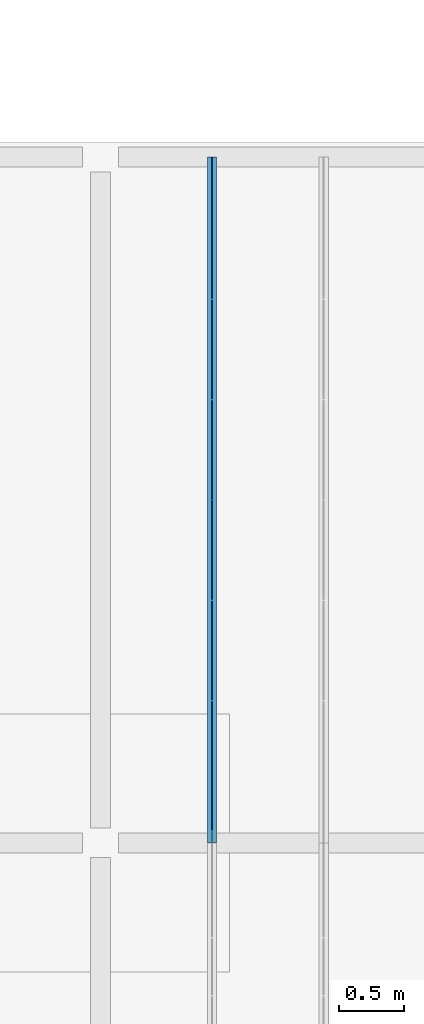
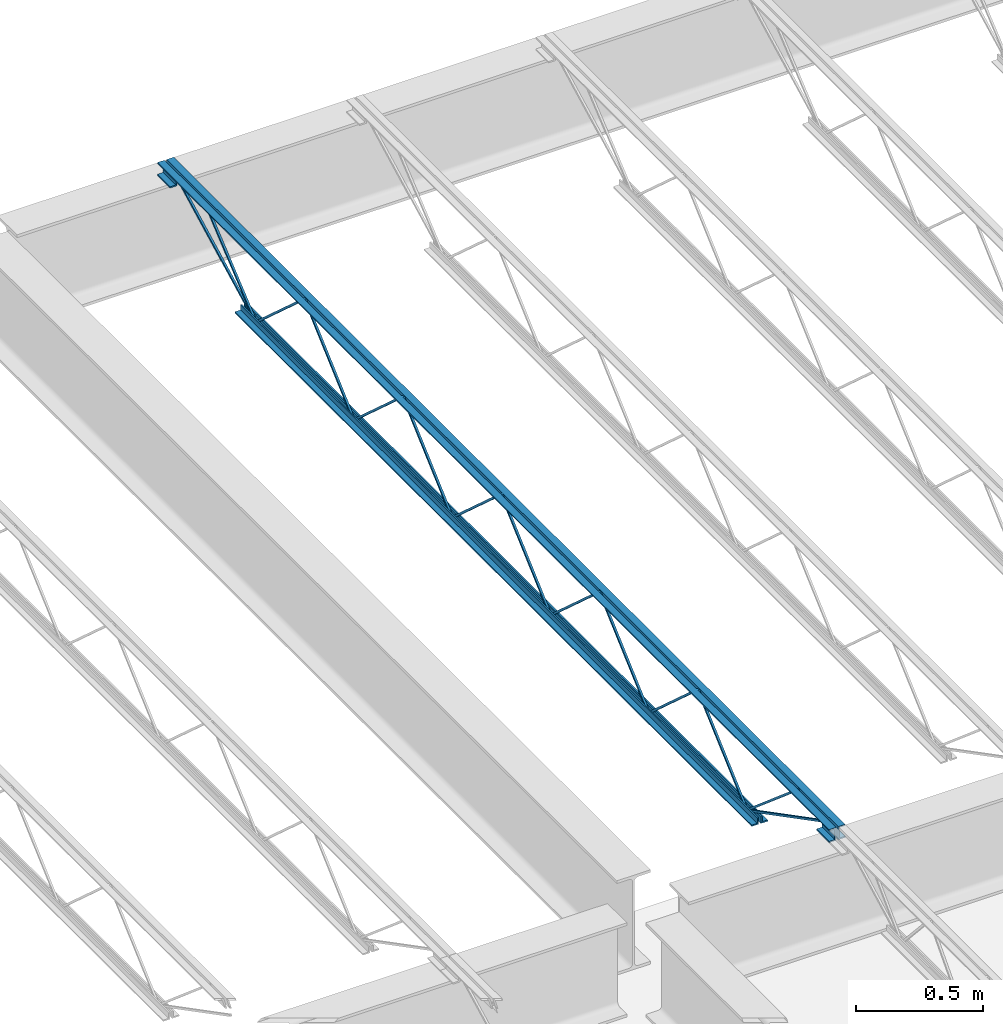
# One storey, part 60 of 75: 1 beam.
"""IFC2X3 building model written with IfcOpenShell, lengths in metres."""

from ifc_helpers import new_model, entity, si_unit, converted_unit, frame, origin, place, context, project, spatial, face_set, surface_model, element, save


model = new_model("IFC2X3")

# Units and contexts
model_context = context("Model", 3, precision=1e-09, world=origin())
plan_context = context("Plan", 3, precision=1e-09, world=origin())
ifc_project = project(units=[si_unit("LENGTHUNIT", "METRE"), si_unit("AREAUNIT", "SQUARE_METRE"), si_unit("VOLUMEUNIT", "CUBIC_METRE"), converted_unit("PLANEANGLEUNIT", "DEGREE", entity("IfcRatioMeasure", 0.01745329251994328), si_unit("PLANEANGLEUNIT", "RADIAN"), dimensions=[0, 0, 0, 0, 0, 0, 0]), si_unit("TIMEUNIT", "SECOND")], contexts=[model_context, plan_context])

# Site, building, storey
site_placement = place(None, origin())
site = spatial("IfcSite", under=ifc_project, at=site_placement, Name="Default", CompositionType="ELEMENT")
building_placement = place(site_placement, origin())
building = spatial("IfcBuilding", under=site, at=building_placement, CompositionType="ELEMENT")
storey_placement = place(building_placement, origin())
storey = spatial("IfcBuildingStorey", under=building, at=storey_placement, Name="First Floor", CompositionType="ELEMENT", Elevation=-3.531500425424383e-13)

# Beam
beam_placement = place(storey_placement, frame((-19.23341249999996, 44.78049999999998, 4.112000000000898), z_axis=(0.0, 0.0, 1.0), x_axis=(-1.0, 0.0, 0.0)))
element("IfcBeam", 1, at=beam_placement, inside=storey, Name="M_K-Series Bar Joist-Rod Web:14K1:14K1", ObjectType="M_K-Series Bar Joist-Rod Web:14K1", context=model_context, shape_type="SurfaceModel", body=[
    surface_model("IfcFaceBasedSurfaceModel", [(-0.03200000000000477, -2.266000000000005, 0.01110000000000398), (-0.0415000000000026, -2.266000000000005, 0.01110000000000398), (-0.0415000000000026, -2.266000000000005, 0.001600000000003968), (-0.03200000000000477, -2.266000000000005, 0.001600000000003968), (-0.04150000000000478, -2.264645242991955, 0.01110000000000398), (-0.03200000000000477, -2.264645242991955, 0.01110000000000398), (-0.04150000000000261, -2.261004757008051, 0.001600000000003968), (-0.04150000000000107, -1.878854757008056, 0.3449000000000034), (-0.04150000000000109, -1.876145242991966, 0.3449000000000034), (-0.0415000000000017, -1.493995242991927, 0.001600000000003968), (-0.04150000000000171, -1.489000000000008, 0.001600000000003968), (-0.04150000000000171, -1.489000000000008, 0.01110000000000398), (-0.04150000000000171, -1.490354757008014, 0.01110000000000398), (-0.04150000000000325, -1.872504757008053, 0.3544000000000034), (-0.04150000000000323, -1.88249524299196, 0.3544000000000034), (-0.03200000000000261, -2.261004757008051, 0.001600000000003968), (-0.0320000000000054, -1.878854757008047, 0.3449000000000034), (-0.03200000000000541, -1.876145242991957, 0.3449000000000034), (-0.03200000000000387, -1.493995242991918, 0.001600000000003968), (-0.03200000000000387, -1.489000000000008, 0.001600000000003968), (-0.03200000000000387, -1.489000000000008, 0.01110000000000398), (-0.03200000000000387, -1.490354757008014, 0.01110000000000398), (-0.03200000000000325, -1.872504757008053, 0.3544000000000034), (-0.03200000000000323, -1.88249524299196, 0.3544000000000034), (-0.0320000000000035, -3.043000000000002, 0.01110000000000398), (-0.04150000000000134, -3.043000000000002, 0.01110000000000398), (-0.04150000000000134, -3.043000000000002, 0.001600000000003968), (-0.0320000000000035, -3.043000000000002, 0.001600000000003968), (-0.04150000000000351, -3.041645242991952, 0.01110000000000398), (-0.03200000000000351, -3.041645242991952, 0.01110000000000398), (-0.04150000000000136, -3.038004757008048, 0.001600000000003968), (-0.04150000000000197, -2.655854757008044, 0.3449000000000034), (-0.04150000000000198, -2.653145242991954, 0.3449000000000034), (-0.0415000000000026, -2.270995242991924, 0.001600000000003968), (-0.04150000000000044, -2.266000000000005, 0.01110000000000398), (-0.04150000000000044, -2.267354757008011, 0.01110000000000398), (-0.04150000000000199, -2.649504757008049, 0.3544000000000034), (-0.04150000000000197, -2.659495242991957, 0.3544000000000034), (-0.03200000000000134, -3.038004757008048, 0.001600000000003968), (-0.03200000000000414, -2.655854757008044, 0.3449000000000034), (-0.03200000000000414, -2.653145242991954, 0.3449000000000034), (-0.0320000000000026, -2.270995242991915, 0.001600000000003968), (-0.0320000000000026, -2.266000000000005, 0.001600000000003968), (-0.03200000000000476, -2.267354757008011, 0.01110000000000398), (-0.03200000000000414, -2.649504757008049, 0.3544000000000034), (-0.03200000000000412, -2.659495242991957, 0.3544000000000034), (-0.0320000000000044, -3.819999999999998, 0.01110000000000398), (-0.04150000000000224, -3.819999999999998, 0.01110000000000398), (-0.04150000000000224, -3.819999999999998, 0.001600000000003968), (-0.0320000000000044, -3.819999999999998, 0.001600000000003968), (-0.04150000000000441, -3.818645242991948, 0.01110000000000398), (-0.0320000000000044, -3.818645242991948, 0.01110000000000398), (-0.04150000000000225, -3.815004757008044, 0.001600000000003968), (-0.04150000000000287, -3.432854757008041, 0.3449000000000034), (-0.04150000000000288, -3.43014524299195, 0.3449000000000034), (-0.04150000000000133, -3.047995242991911, 0.001600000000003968), (-0.04150000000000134, -3.042999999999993, 0.001600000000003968), (-0.04150000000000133, -3.044354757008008, 0.01110000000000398), (-0.04150000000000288, -3.426504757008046, 0.3544000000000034), (-0.04150000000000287, -3.436495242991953, 0.3544000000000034), (-0.03200000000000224, -3.815004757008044, 0.001600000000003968), (-0.03200000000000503, -3.432854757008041, 0.3449000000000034), (-0.03200000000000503, -3.43014524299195, 0.3449000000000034), (-0.03200000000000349, -3.047995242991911, 0.001600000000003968), (-0.0320000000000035, -3.042999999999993, 0.01110000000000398), (-0.0320000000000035, -3.044354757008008, 0.01110000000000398), (-0.03200000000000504, -3.426504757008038, 0.3544000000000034), (-0.03200000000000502, -3.436495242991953, 0.3544000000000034), (-0.0320000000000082, -1.489000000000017, 0.01109999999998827), (-0.04150000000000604, -1.489000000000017, 0.01109999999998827), (-0.04150000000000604, -1.489000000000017, 0.001599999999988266), (-0.0320000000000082, -1.489000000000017, 0.001599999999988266), (-0.04150000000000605, -1.487645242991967, 0.01109999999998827), (-0.03200000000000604, -1.487645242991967, 0.01109999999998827), (-0.04150000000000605, -1.484004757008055, 0.001599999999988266), (-0.04150000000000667, -1.101854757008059, 0.3448999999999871), (-0.04150000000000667, -1.099145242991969, 0.3448999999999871), (-0.0415000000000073, -0.7169952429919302, 0.001599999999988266), (-0.04150000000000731, -0.7120000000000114, 0.001599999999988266), (-0.04150000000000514, -0.7120000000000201, 0.01109999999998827), (-0.04150000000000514, -0.7133547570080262, 0.01109999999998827), (-0.04150000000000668, -1.095504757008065, 0.3543999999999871), (-0.04150000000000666, -1.105495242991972, 0.3543999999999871), (-0.03200000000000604, -1.484004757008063, 0.001599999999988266), (-0.03200000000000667, -1.101854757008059, 0.3448999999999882), (-0.03200000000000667, -1.099145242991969, 0.3448999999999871), (-0.03200000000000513, -0.7169952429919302, 0.001599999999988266), (-0.03200000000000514, -0.7120000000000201, 0.001599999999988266), (-0.03200000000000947, -0.7120000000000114, 0.01109999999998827), (-0.0320000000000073, -0.7133547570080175, 0.01109999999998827), (-0.03200000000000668, -1.095504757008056, 0.3543999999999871), (-0.03200000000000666, -1.105495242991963, 0.3543999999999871), (-0.03200000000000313, -4.596999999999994, 0.01110000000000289), (-0.04150000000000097, -4.596999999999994, 0.01110000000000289), (-0.04150000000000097, -4.596999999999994, 0.001600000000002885), (-0.03200000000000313, -4.596999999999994, 0.001600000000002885), (-0.04150000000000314, -4.595645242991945, 0.01110000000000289), (-0.03200000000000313, -4.595645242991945, 0.01110000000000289), (-0.04150000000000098, -4.592004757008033, 0.001600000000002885), (-0.04150000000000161, -4.209854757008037, 0.3449000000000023), (-0.04150000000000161, -4.207145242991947, 0.3449000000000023), (-0.04150000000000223, -3.824995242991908, 0.001600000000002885), (-0.04150000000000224, -3.819999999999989, 0.001600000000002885), (-0.04150000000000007, -3.819999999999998, 0.01110000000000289), (-0.04150000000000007, -3.821354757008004, 0.01110000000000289), (-0.04150000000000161, -4.203504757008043, 0.3544000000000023), (-0.0415000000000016, -4.21349524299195, 0.3544000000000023), (-0.03200000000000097, -4.592004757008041, 0.001600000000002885), (-0.03200000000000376, -4.209854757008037, 0.3449000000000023), (-0.03200000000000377, -4.207145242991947, 0.3449000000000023), (-0.03200000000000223, -3.824995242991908, 0.001600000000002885), (-0.03200000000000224, -3.819999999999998, 0.001600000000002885), (-0.0320000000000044, -3.819999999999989, 0.01110000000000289), (-0.03200000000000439, -3.821354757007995, 0.01110000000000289), (-0.03200000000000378, -4.203504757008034, 0.3544000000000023), (-0.03200000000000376, -4.21349524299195, 0.3544000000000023), (-0.04150000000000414, 0.0, 0.3559999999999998), (-0.07350000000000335, 0.0, 0.3559999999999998), (-0.07350000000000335, 0.0, 0.349499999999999), (-0.04800000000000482, 0.0, 0.349499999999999), (-0.04800000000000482, 0.0, 0.3239999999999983), (-0.04150000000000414, 0.0, 0.3239999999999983), (-0.03200000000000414, 0.0, 0.3559999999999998), (-0.03200000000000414, 0.0, 0.3239999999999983), (-0.02550000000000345, 0.0, 0.3239999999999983), (-0.02550000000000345, 0.0, 0.349499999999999), (0.0, 0.0, 0.349499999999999), (0.0, 0.0, 0.3559999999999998), (-0.04150000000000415, -5.308999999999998, 0.3559999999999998), (-0.07350000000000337, -5.308999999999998, 0.3559999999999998), (-0.07350000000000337, -5.308999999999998, 0.349499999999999), (-0.04800000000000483, -5.308999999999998, 0.349499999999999), (-0.04800000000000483, -5.308999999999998, 0.3239999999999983), (-0.04150000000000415, -5.308999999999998, 0.3239999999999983), (-0.03200000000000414, -5.308999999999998, 0.3559999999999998), (-0.03200000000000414, -5.308999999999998, 0.3239999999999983), (-0.02550000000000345, -5.308999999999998, 0.3239999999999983), (-0.02550000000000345, -5.308999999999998, 0.349499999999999), (0.0, -5.308999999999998, 0.349499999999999), (0.0, -5.308999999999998, 0.3559999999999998), (-0.0320000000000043, -5.209000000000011, 0.2924999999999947), (0.0, -5.209000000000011, 0.2924999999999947), (0.0, -5.209000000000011, 0.2989999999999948), (-0.02550000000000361, -5.209000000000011, 0.2989999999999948), (-0.02550000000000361, -5.209000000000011, 0.3239999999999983), (-0.0320000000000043, -5.209000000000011, 0.3239999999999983), (-0.07350000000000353, -5.209000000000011, 0.2924999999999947), (-0.0415000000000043, -5.209000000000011, 0.2924999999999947), (-0.0415000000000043, -5.209000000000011, 0.3239999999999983), (-0.04800000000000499, -5.209000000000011, 0.3239999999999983), (-0.04800000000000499, -5.209000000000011, 0.2989999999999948), (-0.07350000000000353, -5.209000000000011, 0.2989999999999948), (-0.03200000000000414, -5.308999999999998, 0.2924999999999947), (0.0, -5.308999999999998, 0.2924999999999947), (0.0, -5.308999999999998, 0.2989999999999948), (-0.02550000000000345, -5.308999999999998, 0.2989999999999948), (-0.07350000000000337, -5.308999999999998, 0.2924999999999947), (-0.04150000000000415, -5.308999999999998, 0.2924999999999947), (-0.04800000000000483, -5.308999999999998, 0.2989999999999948), (-0.07350000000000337, -5.308999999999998, 0.2989999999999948), (-0.04150000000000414, 0.0, 0.2924999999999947), (-0.04800000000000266, 0.0, 0.3239999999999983), (-0.04800000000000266, 0.0, 0.2989999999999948), (-0.07350000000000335, 0.0, 0.2989999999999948), (-0.07350000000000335, 0.0, 0.2924999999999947), (-0.03200000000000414, 0.0, 0.2924999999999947), (0.0, 0.0, 0.2924999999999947), (0.0, 0.0, 0.2989999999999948), (-0.02550000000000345, 0.0, 0.2989999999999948), (-0.04150000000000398, -0.0999999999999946, 0.2924999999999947), (-0.04150000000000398, -0.0999999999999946, 0.3239999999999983), (-0.0480000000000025, -0.0999999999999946, 0.3239999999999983), (-0.0480000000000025, -0.0999999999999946, 0.2989999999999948), (-0.0735000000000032, -0.0999999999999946, 0.2989999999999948), (-0.0735000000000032, -0.0999999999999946, 0.2924999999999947), (-0.03200000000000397, -0.0999999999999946, 0.2924999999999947), (0.0, -0.0999999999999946, 0.2924999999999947), (0.0, -0.0999999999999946, 0.2989999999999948), (-0.02550000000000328, -0.0999999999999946, 0.2989999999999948), (-0.02550000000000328, -0.0999999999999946, 0.3239999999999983), (-0.03200000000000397, -0.0999999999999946, 0.3239999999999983), (-0.04150000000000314, -0.6119999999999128, 0.0), (-0.04150000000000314, -0.6119999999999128, 0.03199999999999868), (-0.04800000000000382, -0.6119999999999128, 0.03199999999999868), (-0.04800000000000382, -0.6119999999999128, 0.006499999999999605), (-0.07350000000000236, -0.6119999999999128, 0.006499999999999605), (-0.07350000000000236, -0.6119999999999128, 0.0), (-0.03200000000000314, -0.6119999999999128, 0.0), (0.0, -0.6119999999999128, 0.0), (0.0, -0.6119999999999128, 0.006499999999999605), (-0.02550000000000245, -0.6119999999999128, 0.006499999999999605), (-0.02550000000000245, -0.6119999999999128, 0.03199999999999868), (-0.03200000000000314, -0.6119999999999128, 0.03199999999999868), (-0.04150000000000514, -4.696999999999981, 0.0), (-0.04150000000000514, -4.696999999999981, 0.03199999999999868), (-0.04800000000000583, -4.696999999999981, 0.03199999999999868), (-0.04800000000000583, -4.696999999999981, 0.006499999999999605), (-0.07350000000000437, -4.696999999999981, 0.006499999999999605), (-0.07350000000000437, -4.696999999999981, 0.0), (-0.03200000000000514, -4.696999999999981, 0.0), (0.0, -4.696999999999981, 0.0), (0.0, -4.696999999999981, 0.006499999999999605), (-0.02550000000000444, -4.696999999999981, 0.006499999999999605), (-0.02550000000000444, -4.696999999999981, 0.03199999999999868), (-0.03200000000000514, -4.696999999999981, 0.03199999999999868), (-0.03200000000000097, -4.594811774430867, 0.01056594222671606), (-0.04150000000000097, -4.594811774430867, 0.01056594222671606), (-0.04150000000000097, -4.599188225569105, 0.002134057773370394), (-0.03200000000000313, -4.599188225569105, 0.002134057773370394), (-0.03199999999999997, -5.207840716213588, 0.3287499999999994), (-0.03200000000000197, -5.308999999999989, 0.3287499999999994), (-0.03200000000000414, -5.308999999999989, 0.3192499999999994), (-0.0320000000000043, -5.210159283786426, 0.3192499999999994), (-0.04149999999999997, -5.210159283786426, 0.3192499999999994), (-0.04150000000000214, -5.207840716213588, 0.3287499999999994), (-0.04150000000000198, -5.308999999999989, 0.3287499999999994), (-0.04150000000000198, -5.308999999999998, 0.3192499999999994), (-0.03200000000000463, -5.005457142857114, 0.341700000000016), (-0.04150000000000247, -5.005457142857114, 0.341700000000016), (-0.04150000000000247, -5.005457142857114, 0.332200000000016), (-0.03200000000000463, -5.005457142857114, 0.332200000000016), (-0.04150000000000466, -4.991034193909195, 0.341700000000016), (-0.03200000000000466, -4.991034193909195, 0.341700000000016), (-0.04150000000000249, -4.99448009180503, 0.332200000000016), (-0.04150000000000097, -4.600045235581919, 0.002704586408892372), (-0.04150000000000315, -4.593954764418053, 0.009995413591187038), (-0.03200000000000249, -4.99448009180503, 0.332200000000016), (-0.0320000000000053, -4.600045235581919, 0.002704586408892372), (-0.03200000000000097, -4.593954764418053, 0.009995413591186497), (-0.03200000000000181, -0.09781177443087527, 0.3197840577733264), (-0.03200000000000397, -0.1021882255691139, 0.3282159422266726), (-0.04150000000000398, -0.1021882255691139, 0.3282159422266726), (-0.04150000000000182, -0.09781177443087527, 0.3197840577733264), (-0.03200000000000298, -0.7098117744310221, 0.002134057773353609), (-0.03200000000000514, -0.7141882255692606, 0.01056594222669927), (-0.04150000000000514, -0.7141882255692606, 0.01056594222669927), (-0.04150000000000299, -0.7098117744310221, 0.002134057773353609), (-0.03200000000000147, -0.3059055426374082, 0.3460340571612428), (-0.03200000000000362, -0.3120658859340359, 0.3532659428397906), (-0.04150000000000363, -0.3120658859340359, 0.3532659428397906), (-0.04150000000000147, -0.3059055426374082, 0.3460340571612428), (-0.03200000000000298, -0.7089198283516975, 0.002734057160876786), (-0.03200000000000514, -0.7150801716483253, 0.009965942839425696), (-0.04150000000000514, -0.7150801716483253, 0.009965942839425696), (-0.04150000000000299, -0.7089198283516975, 0.002734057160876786)], [face_set([[[0, 1, 2, 3]], [[1, 4, 5, 0]], [[2, 6, 7, 8, 9, 10, 11, 12, 13, 14, 4, 1]], [[3, 2, 6, 15]], [[0, 3, 15, 16, 17, 18, 19, 20, 21, 22, 23, 5]], [[4, 5, 23, 14]], [[15, 16, 7, 6]], [[14, 13, 22, 23]], [[16, 7, 8, 17]], [[13, 12, 21, 22]], [[17, 8, 9, 18]], [[20, 11, 10, 19]], [[12, 11, 20, 21]], [[18, 9, 10, 19]]]), face_set([[[24, 25, 26, 27]], [[25, 28, 29, 24]], [[26, 30, 31, 32, 33, 2, 34, 35, 36, 37, 28, 25]], [[27, 26, 30, 38]], [[24, 27, 38, 39, 40, 41, 42, 0, 43, 44, 45, 29]], [[28, 29, 45, 37]], [[38, 39, 31, 30]], [[37, 36, 44, 45]], [[39, 31, 32, 40]], [[36, 35, 43, 44]], [[40, 32, 33, 41]], [[0, 34, 2, 42]], [[35, 34, 0, 43]], [[41, 33, 2, 42]]]), face_set([[[46, 47, 48, 49]], [[47, 50, 51, 46]], [[48, 52, 53, 54, 55, 56, 25, 57, 58, 59, 50, 47]], [[49, 48, 52, 60]], [[46, 49, 60, 61, 62, 63, 27, 64, 65, 66, 67, 51]], [[50, 51, 67, 59]], [[60, 61, 53, 52]], [[59, 58, 66, 67]], [[61, 53, 54, 62]], [[58, 57, 65, 66]], [[62, 54, 55, 63]], [[64, 25, 56, 27]], [[57, 25, 64, 65]], [[63, 55, 56, 27]]]), face_set([[[68, 69, 70, 71]], [[69, 72, 73, 68]], [[70, 74, 75, 76, 77, 78, 79, 80, 81, 82, 72, 69]], [[71, 70, 74, 83]], [[68, 71, 83, 84, 85, 86, 87, 88, 89, 90, 91, 73]], [[72, 73, 91, 82]], [[83, 84, 75, 74]], [[82, 81, 90, 91]], [[84, 75, 76, 85]], [[81, 80, 89, 90]], [[85, 76, 77, 86]], [[88, 79, 78, 87]], [[80, 79, 88, 89]], [[86, 77, 78, 87]]]), face_set([[[92, 93, 94, 95]], [[93, 96, 97, 92]], [[94, 98, 99, 100, 101, 102, 103, 104, 105, 106, 96, 93]], [[95, 94, 98, 107]], [[92, 95, 107, 108, 109, 110, 111, 112, 113, 114, 115, 97]], [[96, 97, 115, 106]], [[107, 108, 99, 98]], [[106, 105, 114, 115]], [[108, 99, 100, 109]], [[105, 104, 113, 114]], [[109, 100, 101, 110]], [[112, 103, 102, 111]], [[104, 103, 112, 113]], [[110, 101, 102, 111]]]), face_set([[[116, 117, 118, 119, 120, 121]], [[122, 123, 124, 125, 126, 127]], [[128, 129, 130, 131, 132, 133]], [[134, 135, 136, 137, 138, 139]], [[121, 116, 128, 133]], [[120, 121, 133, 132]], [[119, 131, 132, 120]], [[118, 119, 131, 130]], [[117, 129, 130, 118]], [[116, 128, 129, 117]], [[127, 139, 134, 122]], [[126, 127, 139, 138]], [[125, 126, 138, 137]], [[124, 125, 137, 136]], [[123, 124, 136, 135]], [[122, 134, 135, 123]]]), face_set([[[140, 141, 142, 143, 144, 145]], [[146, 147, 148, 149, 150, 151]], [[152, 153, 154, 155, 136, 135]], [[156, 157, 133, 132, 158, 159]], [[145, 135, 152, 140]], [[144, 136, 135, 145]], [[143, 144, 136, 155]], [[142, 154, 155, 143]], [[141, 142, 154, 153]], [[140, 141, 153, 152]], [[151, 159, 156, 146]], [[150, 158, 159, 151]], [[149, 132, 158, 150]], [[148, 133, 132, 149]], [[147, 148, 133, 157]], [[146, 147, 157, 156]]]), face_set([[[160, 121, 161, 162, 163, 164]], [[165, 166, 167, 168, 124, 123]], [[169, 170, 171, 172, 173, 174]], [[175, 176, 177, 178, 179, 180]], [[164, 160, 169, 174]], [[163, 173, 174, 164]], [[162, 172, 173, 163]], [[161, 171, 172, 162]], [[121, 170, 171, 161]], [[160, 121, 170, 169]], [[123, 180, 175, 165]], [[124, 179, 180, 123]], [[168, 124, 179, 178]], [[167, 177, 178, 168]], [[166, 167, 177, 176]], [[165, 166, 176, 175]]]), face_set([[[181, 182, 183, 184, 185, 186]], [[187, 188, 189, 190, 191, 192]], [[193, 194, 195, 196, 197, 198]], [[199, 200, 201, 202, 203, 204]], [[186, 181, 193, 198]], [[185, 197, 198, 186]], [[184, 196, 197, 185]], [[183, 195, 196, 184]], [[182, 194, 195, 183]], [[181, 182, 194, 193]], [[192, 204, 199, 187]], [[191, 203, 204, 192]], [[190, 191, 203, 202]], [[189, 201, 202, 190]], [[188, 189, 201, 200]], [[187, 188, 200, 199]]]), face_set([[[205, 206, 207, 208]], [[208, 205, 209, 210, 211, 212]], [[207, 208, 212, 213]], [[206, 214, 215, 216, 213, 207]], [[205, 209, 214, 206]], [[210, 215, 216, 211]], [[213, 212, 211, 216]], [[209, 210, 215, 214]]]), face_set([[[217, 218, 219, 220]], [[218, 221, 222, 217]], [[219, 223, 224, 225, 221, 218]], [[220, 219, 223, 226]], [[217, 220, 226, 227, 228, 222]], [[228, 225, 224, 227]], [[221, 225, 228, 222]], [[226, 223, 224, 227]]]), face_set([[[229, 230, 231, 232]], [[233, 234, 235, 236]], [[232, 236, 233, 229]], [[231, 235, 236, 232]], [[230, 231, 235, 234]], [[229, 230, 234, 233]]]), face_set([[[237, 238, 239, 240]], [[241, 242, 243, 244]], [[240, 244, 241, 237]], [[239, 243, 244, 240]], [[238, 239, 243, 242]], [[237, 238, 242, 241]]])]),
])

save(model, "model.ifc")
